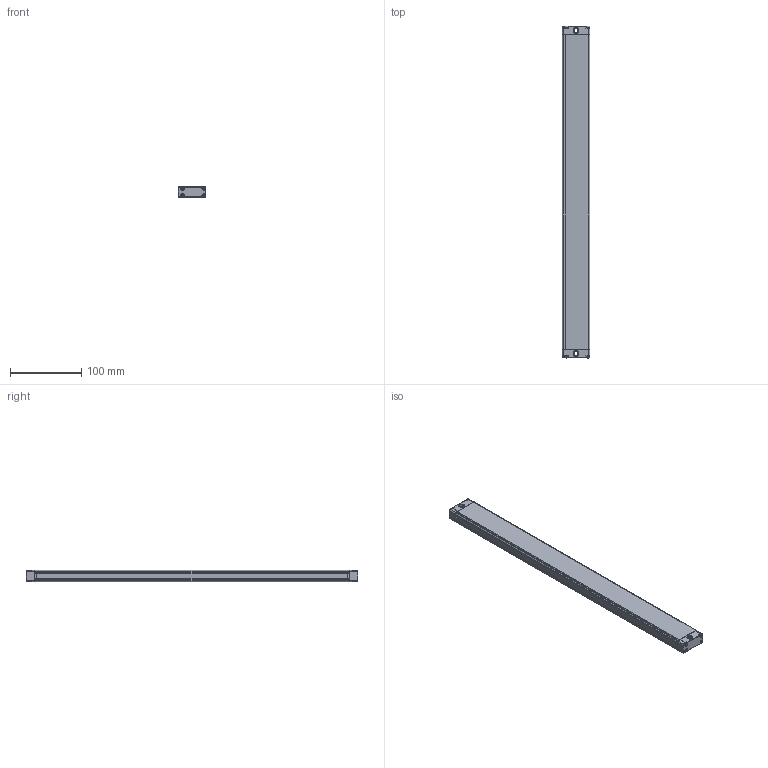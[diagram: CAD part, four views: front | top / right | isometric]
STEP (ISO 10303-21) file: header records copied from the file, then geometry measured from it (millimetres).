
FILE_DESCRIPTION((''),'2;1');
FILE_NAME('EB15--3610_ASM','2021-07-22T10:01:30',('18720616900'),(''),'CREO PARAMETRIC BY PTC INC, 2019010','CREO PARAMETRIC BY PTC INC, 2019010','');
FILE_SCHEMA(('CONFIG_CONTROL_DESIGN'));
Length unit declared in the file: millimetre
Products named in the file (6): EB15-00; EB15-000; EB15-0003; EB15-0004; ST-3-12; EB15--3610_ASM
Assembly tree (12 placements, depth 2):
  EB15--3610_ASM
    EB15-00
    EB15-000
    EB15-0003
    EB15-0004
    ST-3-12  x8
Bounding box: 39.15 x 465 x 15.8 mm (x, y, z)
Volume: 279045.2 mm3; surface area: 70855.2 mm2
Topology: 12 solids, 12 shells, 827 faces, 2188 edges, 1368 vertices
Faces by surface type: plane 242, bspline 188, cone 176, cylinder 165, torus 40, sphere 16
Entity records: 16044 total; most frequent: CARTESIAN_POINT 7660, ORIENTED_EDGE 1804, DIRECTION 1603, EDGE_CURVE 902, AXIS2_PLACEMENT_3D 577, VERTEX_POINT 563, VECTOR 449, LINE 449
